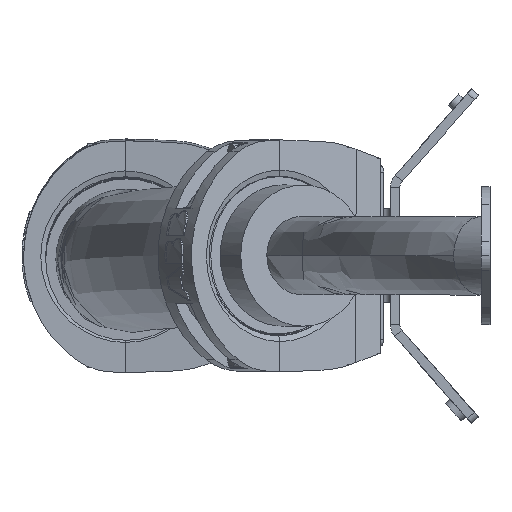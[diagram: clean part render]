
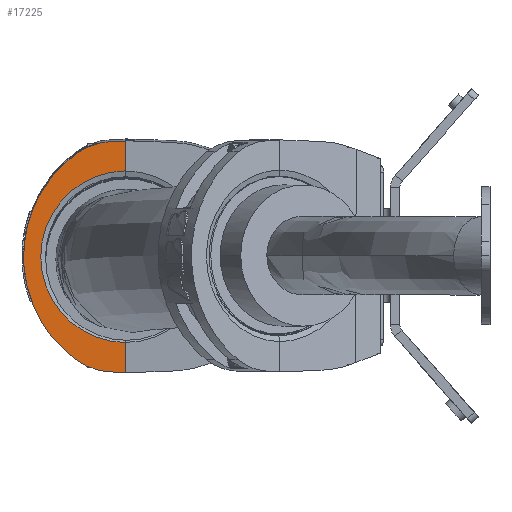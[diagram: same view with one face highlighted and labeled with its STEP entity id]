
A CAD part, left-side view. The second image highlights one B-rep face of the part: STEP entity #17225.
In plain terms, the highlighted planar face has unit normal (-0.999, -0.035, -0.028).
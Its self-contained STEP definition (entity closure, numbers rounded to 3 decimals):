
#1382 =( BOUNDED_CURVE ( )  B_SPLINE_CURVE ( 3, ( #3658, #15413, #3769, #5268 ),
 .UNSPECIFIED., .F., .T. ) 
 B_SPLINE_CURVE_WITH_KNOTS ( ( 4, 4 ),
 ( 2.184, 4.099 ),
 .UNSPECIFIED. ) 
 CURVE ( )  GEOMETRIC_REPRESENTATION_ITEM ( )  RATIONAL_B_SPLINE_CURVE ( ( 1., 0.717, 0.717, 1. ) ) 
 REPRESENTATION_ITEM ( '' )  );
#1416 = LINE ( 'NONE', #3250, #18564 ) ;
#2231 = CARTESIAN_POINT ( 'NONE',  ( 1678.901, 338.294, 2451.195 ) ) ;
#2443 = CARTESIAN_POINT ( 'NONE',  ( 1679.504, 321.5, 2450.625 ) ) ;
#2617 = VERTEX_POINT ( 'NONE', #2443 ) ;
#3148 = VERTEX_POINT ( 'NONE', #4406 ) ;
#3250 = CARTESIAN_POINT ( 'NONE',  ( 1679.501, 321.567, 2450.628 ) ) ;
#3413 = DIRECTION ( 'NONE',  ( -0.034, 0.999, -0.036 ) ) ;
#3491 = CARTESIAN_POINT ( 'NONE',  ( 1674.498, 352.098, 2590.62 ) ) ;
#3648 = ORIENTED_EDGE ( 'NONE', *, *, #10115, .T. ) ;
#3658 = CARTESIAN_POINT ( 'NONE',  ( 1674.498, 352.098, 2590.62 ) ) ;
#3769 = CARTESIAN_POINT ( 'NONE',  ( 1675.467, 402.497, 2493.546 ) ) ;
#4119 = EDGE_CURVE ( 'NONE', #3148, #2617, #20535, .T. ) ;
#4387 = DIRECTION ( 'NONE',  ( -0.035, 0.999, -0.001 ) ) ;
#4406 = CARTESIAN_POINT ( 'NONE',  ( 1678.968, 321.5, 2469.682 ) ) ;
#4455 = ORIENTED_EDGE ( 'NONE', *, *, #10223, .T. ) ;
#4631 = EDGE_CURVE ( 'NONE', #18495, #12415, #19693, .T. ) ;
#5250 = FACE_OUTER_BOUND ( 'NONE', #17890, .T. ) ;
#5268 = CARTESIAN_POINT ( 'NONE',  ( 1678.223, 352.098, 2458.163 ) ) ;
#5375 = CARTESIAN_POINT ( 'NONE',  ( 1679.181, 330.483, 2450.93 ) ) ;
#5962 = CARTESIAN_POINT ( 'NONE',  ( 1675.89, 321.5, 2579.162 ) ) ;
#6136 = CIRCLE ( 'NONE', #10697, 54.766 ) ;
#7040 = ORIENTED_EDGE ( 'NONE', *, *, #4631, .T. ) ;
#7755 = VECTOR ( 'NONE', #16037, 1000. ) ;
#7771 = CARTESIAN_POINT ( 'NONE',  ( 1677.454, 320.782, 2524.422 ) ) ;
#7889 = DIRECTION ( 'NONE',  ( 0.999, 0.035, 0.028 ) ) ;
#7894 = CARTESIAN_POINT ( 'NONE',  ( 1678.223, 352.098, 2458.163 ) ) ;
#8380 = CARTESIAN_POINT ( 'NONE',  ( 1675.049, 330.483, 2597.895 ) ) ;
#8620 = LINE ( 'NONE', #10398, #21193 ) ;
#8756 = DIRECTION ( 'NONE',  ( 0.028, 0., -1. ) ) ;
#9408 = VERTEX_POINT ( 'NONE', #7894 ) ;
#9731 = EDGE_CURVE ( 'NONE', #2617, #18366, #1416, .T. ) ;
#10027 = ORIENTED_EDGE ( 'NONE', *, *, #18868, .T. ) ;
#10115 = EDGE_CURVE ( 'NONE', #12415, #9408, #1382, .T. ) ;
#10223 = EDGE_CURVE ( 'NONE', #9408, #18366, #11822, .T. ) ;
#10398 = CARTESIAN_POINT ( 'NONE',  ( 1673.285, 382.488, 2596.029 ) ) ;
#10697 = AXIS2_PLACEMENT_3D ( 'NONE', #7771, #7889, #4387 ) ;
#11040 = CARTESIAN_POINT ( 'NONE',  ( 1679.504, 321.5, 2450.625 ) ) ;
#11261 = CARTESIAN_POINT ( 'NONE',  ( 1675.354, 321.5, 2598.218 ) ) ;
#11541 = CARTESIAN_POINT ( 'NONE',  ( 1675.049, 330.483, 2597.895 ) ) ;
#11822 =( BOUNDED_CURVE ( )  B_SPLINE_CURVE ( 3, ( #20529, #12177, #2231, #5375 ),
 .UNSPECIFIED., .F., .T. ) 
 B_SPLINE_CURVE_WITH_KNOTS ( ( 4, 4 ),
 ( 4.099, 4.677 ),
 .UNSPECIFIED. ) 
 CURVE ( )  GEOMETRIC_REPRESENTATION_ITEM ( )  RATIONAL_B_SPLINE_CURVE ( ( 1., 0.972, 0.972, 1. ) ) 
 REPRESENTATION_ITEM ( '' )  );
#12171 = VERTEX_POINT ( 'NONE', #11261 ) ;
#12177 = CARTESIAN_POINT ( 'NONE',  ( 1678.573, 345.704, 2453.675 ) ) ;
#12415 = VERTEX_POINT ( 'NONE', #20804 ) ;
#12527 = ORIENTED_EDGE ( 'NONE', *, *, #9731, .F. ) ;
#13353 = CARTESIAN_POINT ( 'NONE',  ( 1678.32, 376.5, 2424.407 ) ) ;
#13456 = PLANE ( 'NONE',  #19170 ) ;
#14015 = VECTOR ( 'NONE', #8756, 1000. ) ;
#14091 = ORIENTED_EDGE ( 'NONE', *, *, #4119, .F. ) ;
#14178 = LINE ( 'NONE', #11040, #7755 ) ;
#14648 = ORIENTED_EDGE ( 'NONE', *, *, #15230, .T. ) ;
#15026 = DIRECTION ( 'NONE',  ( -0.036, 0.999, 0.034 ) ) ;
#15187 = DIRECTION ( 'NONE',  ( 0.999, 0.035, 0.028 ) ) ;
#15230 = EDGE_CURVE ( 'NONE', #12171, #18495, #8620, .T. ) ;
#15251 = CARTESIAN_POINT ( 'NONE',  ( 1674.784, 338.294, 2597.615 ) ) ;
#15413 = CARTESIAN_POINT ( 'NONE',  ( 1673.735, 402.497, 2555.138 ) ) ;
#15898 = ORIENTED_EDGE ( 'NONE', *, *, #20940, .F. ) ;
#16037 = DIRECTION ( 'NONE',  ( 0.028, 0., -1. ) ) ;
#17205 = CARTESIAN_POINT ( 'NONE',  ( 1679.504, 321.5, 2450.625 ) ) ;
#17225 = ADVANCED_FACE ( 'NONE', ( #5250 ), #13456, .F. ) ;
#17890 = EDGE_LOOP ( 'NONE', ( #4455, #12527, #14091, #10027, #15898, #14648, #7040, #3648 ) ) ;
#18048 = VERTEX_POINT ( 'NONE', #5962 ) ;
#18366 = VERTEX_POINT ( 'NONE', #19322 ) ;
#18495 = VERTEX_POINT ( 'NONE', #11541 ) ;
#18564 = VECTOR ( 'NONE', #15026, 1000. ) ;
#18745 = DIRECTION ( 'NONE',  ( 0., 0.627, -0.779 ) ) ;
#18868 = EDGE_CURVE ( 'NONE', #3148, #18048, #6136, .T. ) ;
#19170 = AXIS2_PLACEMENT_3D ( 'NONE', #13353, #15187, #18745 ) ;
#19322 = CARTESIAN_POINT ( 'NONE',  ( 1679.181, 330.483, 2450.93 ) ) ;
#19693 =( BOUNDED_CURVE ( )  B_SPLINE_CURVE ( 3, ( #8380, #15251, #20451, #3491 ),
 .UNSPECIFIED., .F., .T. ) 
 B_SPLINE_CURVE_WITH_KNOTS ( ( 4, 4 ),
 ( 1.606, 2.184 ),
 .UNSPECIFIED. ) 
 CURVE ( )  GEOMETRIC_REPRESENTATION_ITEM ( )  RATIONAL_B_SPLINE_CURVE ( ( 1., 0.972, 0.972, 1. ) ) 
 REPRESENTATION_ITEM ( '' )  );
#20451 = CARTESIAN_POINT ( 'NONE',  ( 1674.595, 345.704, 2595.121 ) ) ;
#20529 = CARTESIAN_POINT ( 'NONE',  ( 1678.223, 352.098, 2458.163 ) ) ;
#20535 = LINE ( 'NONE', #17205, #14015 ) ;
#20804 = CARTESIAN_POINT ( 'NONE',  ( 1674.498, 352.098, 2590.62 ) ) ;
#20940 = EDGE_CURVE ( 'NONE', #12171, #18048, #14178, .T. ) ;
#21193 = VECTOR ( 'NONE', #3413, 1000. ) ;
